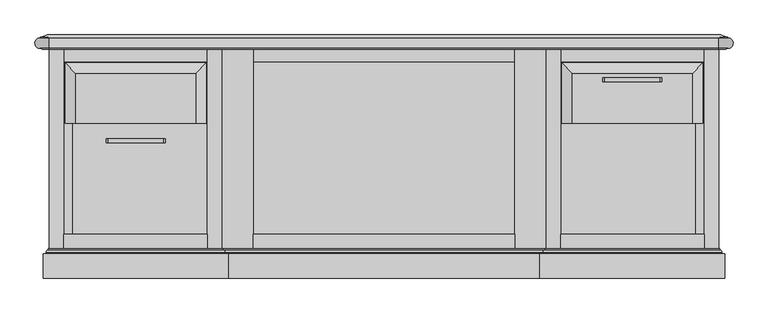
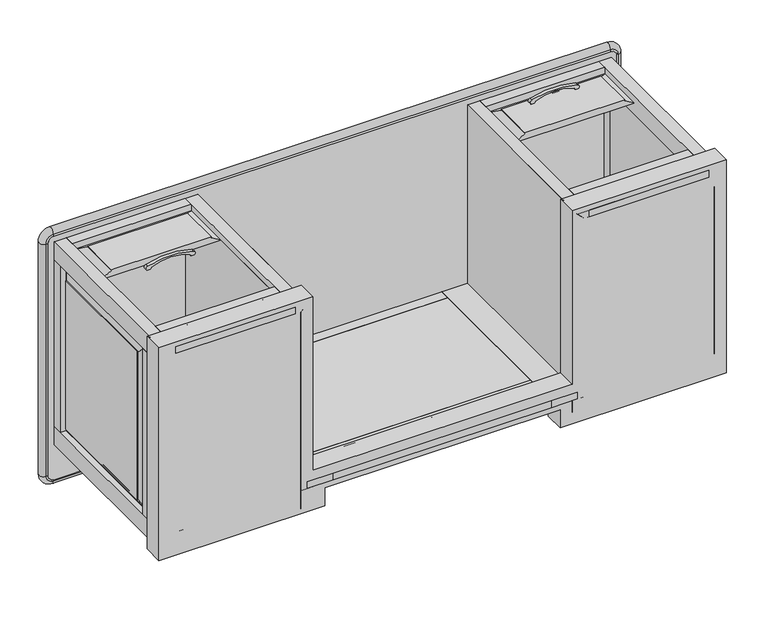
"""IFC4 building model written with IfcOpenShell, lengths in millimetres: proxy geometry, CCN^BRIGHTON_39x84 DESK-PARTS SOLID."""

from ifc_helpers import new_model, si_unit, point, frame, frame_2d, origin, origin_with_axes, place, context, project, spatial, polyline, circle_curve, ellipse_curve, trimmed, segment, composite_curve, outline, extrude, faceted_brep, source, transform, mapped, element, save
from ifc_brep_helpers import plane_surface, cylinder_surface, revolved_surface, advanced_brep


def generic_models_2e247f11(model_context):
    return source(origin(), model_context, "Body", "SolidModel", [
        extrude(outline(composite_curve([segment(polyline([(787.4, 176.8681458), (787.4, 188.1818542)]), True, "CONTINUOUS"), segment(trimmed(circle_curve(frame_2d((794.4, 182.525)), 9.0), [point((787.4, 188.1818542))], [point((794.4, 191.525))], False, "CARTESIAN"), True, "CONTINUOUS"), segment(trimmed(circle_curve(frame_2d((631.8305072, 263.525)), 177.8), [point((794.4, 191.525))], [point((794.4, 335.525))], True, "CARTESIAN"), True, "CONTINUOUS"), segment(trimmed(circle_curve(frame_2d((794.4, 344.525)), 9.0), [point((794.4, 335.525))], [point((787.4, 338.8681458))], False, "CARTESIAN"), True, "CONTINUOUS"), segment(polyline([(787.4, 338.8681458), (787.4, 350.1818542)]), True, "CONTINUOUS"), segment(trimmed(circle_curve(frame_2d((794.4, 344.525)), 9.0), [point((787.4, 350.1818542))], [point((803.0134228, 347.134396))], False, "CARTESIAN"), True, "CONTINUOUS"), segment(trimmed(circle_curve(frame_2d((527.025, 263.525)), 288.375), [point((803.0134228, 347.134396))], [point((803.0134228, 179.915604))], False, "CARTESIAN"), True, "CONTINUOUS"), segment(trimmed(circle_curve(frame_2d((794.4, 182.525)), 9.0), [point((803.0134228, 179.915604))], [point((787.4, 176.8681458))], False, "CARTESIAN"), True, "CONTINUOUS")], self_intersect=False)), frame((0.0, 413.1, 0.0), z_axis=(0.0, 1.0, 0.0), x_axis=(0.0, 0.0, 1.0)), (0.0, 0.0, 1.0), 12.0),
        extrude(outline(composite_curve([segment(polyline([(787.4, 1694.5181458), (787.4, 1705.8318542)]), True, "CONTINUOUS"), segment(trimmed(circle_curve(frame_2d((794.4, 1700.175)), 9.0), [point((787.4, 1705.8318542))], [point((794.4, 1709.175))], False, "CARTESIAN"), True, "CONTINUOUS"), segment(trimmed(circle_curve(frame_2d((631.8305072, 1781.175)), 177.8), [point((794.4, 1709.175))], [point((794.4, 1853.175))], True, "CARTESIAN"), True, "CONTINUOUS"), segment(trimmed(circle_curve(frame_2d((794.4, 1862.175)), 9.0), [point((794.4, 1853.175))], [point((787.4, 1856.5181458))], False, "CARTESIAN"), True, "CONTINUOUS"), segment(polyline([(787.4, 1856.5181458), (787.4, 1867.8318542)]), True, "CONTINUOUS"), segment(trimmed(circle_curve(frame_2d((794.4, 1862.175)), 9.0), [point((787.4, 1867.8318542))], [point((803.0134228, 1864.784396))], False, "CARTESIAN"), True, "CONTINUOUS"), segment(trimmed(circle_curve(frame_2d((527.025, 1781.175)), 288.375), [point((803.0134228, 1864.784396))], [point((803.0134228, 1697.565604))], False, "CARTESIAN"), True, "CONTINUOUS"), segment(trimmed(circle_curve(frame_2d((794.4, 1700.175)), 9.0), [point((803.0134228, 1697.565604))], [point((787.4, 1694.5181458))], False, "CARTESIAN"), True, "CONTINUOUS")], self_intersect=False)), frame((0.0, 600.425, 0.0), z_axis=(0.0, 1.0, 0.0), x_axis=(0.0, 0.0, 1.0)), (0.0, 0.0, 1.0), 12.0),
        extrude(outline(polyline([(482.6, 133.35), (482.6, 0.0), (44.45, 0.0), (44.45, 133.35), (482.6, 133.35)])), frame((0.0, 0.0, 762.0), z_axis=(0.0, 0.0, 1.0), x_axis=(1.0, 0.0, 0.0)), (0.0, 0.0, 1.0), 25.4),
        extrude(outline(polyline([(1562.1, 0.0), (1562.1, 133.35), (2000.25, 133.35), (2000.25, 0.0), (1562.1, 0.0)])), frame((0.0, 0.0, 762.0), z_axis=(0.0, 0.0, 1.0), x_axis=(1.0, 0.0, 0.0)), (0.0, 0.0, 1.0), 25.4),
        advanced_brep(
        [(0.0, 698.5, -135.7882387), (2044.7, 698.5, -135.7882387), (2066.1882387, 698.5, -114.3), (2066.1882387, 698.5, 787.4), (2044.7, 698.5, 808.8882387), (0.0, 698.5, 808.8882387), (-21.4882387, 698.5, 787.4), (-21.4882387, 698.5, -114.3), (-6.6109266, 742.95, -120.9109266), (-6.6109266, 742.95, 794.0109266), (2051.3109266, 742.95, 794.0109266), (2051.3109266, 742.95, -120.9109266), (-20.2055763, 738.0019522, -134.5055763), (-28.575, 734.9557311, -114.3), (-28.575, 734.9557311, 787.4), (-20.2055763, 738.0019522, 807.6055763), (2064.9055763, 738.0019522, -134.5055763), (2044.7, 734.9557311, -142.875), (0.0, 734.9557311, -142.875), (0.0, 733.3682311, -142.875), (-28.575, 733.3682311, -114.3), (0.0, 734.9557311, 815.975), (2044.7, 734.9557311, 815.975), (2064.9055763, 738.0019522, 807.6055763), (-28.575, 733.3682311, 787.4), (0.0, 733.3682311, 815.975), (2073.275, 734.9557311, 787.4), (2073.275, 734.9557311, -114.3), (2044.7, 733.3682311, 815.975), (2073.275, 733.3682311, 787.4), (2073.275, 733.3682311, -114.3), (2044.7, 733.3682311, -142.875), (2044.7, 701.6587803, -141.7410714), (0.0, 701.6587803, -141.7410714), (2072.1410714, 701.6587803, -114.3), (2072.1410714, 701.6587803, 787.4), (2044.7, 701.6587803, 814.8410714), (0.0, 701.6587803, 814.8410714), (-27.4410714, 701.6587803, 787.4), (-27.4410714, 701.6587803, -114.3)],
        [
            (0, 1),
            (1, 2, circle_curve(frame((2044.7, 698.5, -114.3), z_axis=(0.0, -1.0, 0.0), x_axis=(1.0, 0.0, 0.0)), 21.4882387)),
            (2, 3),
            (3, 4, circle_curve(frame((2044.7, 698.5, 787.4), z_axis=(0.0, -1.0, 0.0), x_axis=(0.0, 0.0, 1.0)), 21.4882387)),
            (4, 5),
            (5, 6, circle_curve(frame((0.0, 698.5, 787.4), z_axis=(0.0, -1.0, 0.0), x_axis=(-1.0, 0.0, 0.0)), 21.4882387)),
            (6, 7),
            (7, 0, circle_curve(frame((0.0, 698.5, -114.3), z_axis=(0.0, -1.0, 0.0), x_axis=(0.0, 0.0, -1.0)), 21.4882387)),
            (8, 9),
            (9, 10),
            (10, 11),
            (11, 8),
            (12, 13, ellipse_curve(frame((0.0, 745.3561805, -114.3), z_axis=(-0.3420201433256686, 0.9396926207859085, 0.0), x_axis=(0.9396926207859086, 0.34202014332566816, 0.0)), 30.4088798, 28.575)),
            (13, 14),
            (14, 15, ellipse_curve(frame((0.0, 745.3561805, 787.4), z_axis=(-0.3420201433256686, 0.9396926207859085, 0.0), x_axis=(0.9396926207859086, 0.34202014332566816, 0.0)), 30.4088798, 28.575)),
            (15, 9),
            (8, 12),
            (11, 16),
            (16, 17, ellipse_curve(frame((2044.7, 745.3561805, -114.3), z_axis=(0.0, 0.9396926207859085, -0.3420201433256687), x_axis=(0.0, 0.34202014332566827, 0.9396926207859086)), 30.4088798, 28.575)),
            (17, 18),
            (18, 12, ellipse_curve(frame((0.0, 745.3561805, -114.3), z_axis=(0.0, 0.9396926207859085, -0.3420201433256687), x_axis=(0.0, 0.34202014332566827, 0.9396926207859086)), 30.4088798, 28.575)),
            (18, 19),
            (19, 20, circle_curve(frame((0.0, 733.3682311, -114.3), z_axis=(0.0, 1.0, 0.0), x_axis=(0.0, 0.0, -1.0)), 28.575)),
            (20, 13),
            (15, 21, ellipse_curve(frame((0.0, 745.3561805, 787.4), z_axis=(0.0, 0.9396926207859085, 0.3420201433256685), x_axis=(0.0, 0.34202014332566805, -0.9396926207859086)), 30.4088798, 28.575)),
            (21, 22),
            (22, 23, ellipse_curve(frame((2044.7, 745.3561805, 787.4), z_axis=(0.0, 0.9396926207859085, 0.3420201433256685), x_axis=(0.0, 0.34202014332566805, -0.9396926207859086)), 30.4088798, 28.575)),
            (23, 10),
            (14, 24),
            (24, 25, circle_curve(frame((0.0, 733.3682311, 787.4), z_axis=(0.0, 1.0, 0.0), x_axis=(-1.0, 0.0, 0.0)), 28.575)),
            (25, 21),
            (23, 26, ellipse_curve(frame((2044.7, 745.3561805, 787.4), z_axis=(0.3420201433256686, 0.9396926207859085, 0.0), x_axis=(-0.9396926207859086, 0.34202014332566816, 0.0)), 30.4088798, 28.575)),
            (26, 27),
            (27, 16, ellipse_curve(frame((2044.7, 745.3561805, -114.3), z_axis=(0.3420201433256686, 0.9396926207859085, 0.0), x_axis=(-0.9396926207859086, 0.34202014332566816, 0.0)), 30.4088798, 28.575)),
            (22, 28),
            (28, 29, circle_curve(frame((2044.7, 733.3682311, 787.4), z_axis=(0.0, 1.0, 0.0), x_axis=(0.0, 0.0, 1.0)), 28.575)),
            (29, 26),
            (27, 30),
            (30, 31, circle_curve(frame((2044.7, 733.3682311, -114.3), z_axis=(0.0, 1.0, 0.0), x_axis=(1.0, 0.0, 0.0)), 28.575)),
            (31, 17),
            (32, 1, circle_curve(frame((2044.7, 695.325, -141.2875), z_axis=(1.0, 0.0, 0.0), x_axis=(0.0, 0.9974457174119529, -0.07142857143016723)), 6.35)),
            (0, 33, circle_curve(frame((0.0, 695.325, -141.2875), z_axis=(-1.0, 0.0, 0.0), x_axis=(0.0, 0.9974457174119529, -0.07142857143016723)), 6.35)),
            (33, 32),
            (34, 2, circle_curve(frame((2071.6875, 695.325, -114.3), z_axis=(0.0, 0.0, 1.0), x_axis=(1.0, 0.0, 0.0)), 6.35)),
            (32, 34, circle_curve(frame((2044.7, 701.6587803, -114.3), z_axis=(0.0, -1.0, 0.0), x_axis=(1.0, 0.0, 0.0)), 27.4410714)),
            (35, 3, circle_curve(frame((2071.6875, 695.325, 787.4), z_axis=(0.0, 0.0, 1.0), x_axis=(0.07142857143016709, 0.9974457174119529, 0.0)), 6.35)),
            (34, 35),
            (36, 4, circle_curve(frame((2044.7, 695.325, 814.3875), z_axis=(-1.0, 0.0, 0.0), x_axis=(0.0, 0.0, 1.0)), 6.35)),
            (35, 36, circle_curve(frame((2044.7, 701.6587803, 787.4), z_axis=(0.0, -1.0, 0.0), x_axis=(0.0, 0.0, 1.0)), 27.4410714)),
            (37, 5, circle_curve(frame((0.0, 695.325, 814.3875), z_axis=(-1.0, 0.0, 0.0), x_axis=(0.0, 0.9974457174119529, 0.07142857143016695)), 6.35)),
            (36, 37),
            (38, 6, circle_curve(frame((-26.9875, 695.325, 787.4), z_axis=(0.0, 0.0, -1.0), x_axis=(-1.0, 0.0, 0.0)), 6.35)),
            (37, 38, circle_curve(frame((0.0, 701.6587803, 787.4), z_axis=(0.0, -1.0, 0.0), x_axis=(-1.0, 0.0, 0.0)), 27.4410714)),
            (39, 7, circle_curve(frame((-26.9875, 695.325, -114.3), z_axis=(0.0, 0.0, -1.0), x_axis=(-0.07142857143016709, 0.9974457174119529, 0.0)), 6.35)),
            (38, 39),
            (39, 33, circle_curve(frame((0.0, 701.6587803, -114.3), z_axis=(0.0, -1.0, 0.0), x_axis=(0.0, 0.0, -1.0)), 27.4410714)),
            (31, 19),
            (31, 32, circle_curve(frame((2044.7, 717.4932311, -142.875), z_axis=(-1.0, 0.0, 0.0), x_axis=(0.0, 0.996424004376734, -0.08449380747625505)), 15.875)),
            (33, 19, circle_curve(frame((0.0, 717.4932311, -142.875), z_axis=(1.0, 0.0, 0.0), x_axis=(0.0, 0.996424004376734, -0.08449380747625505)), 15.875)),
            (30, 34, circle_curve(frame((2073.275, 717.4932311, -114.3), z_axis=(0.0, 0.0, -1.0), x_axis=(1.0, 0.0, 0.0)), 15.875)),
            (29, 30),
            (29, 35, circle_curve(frame((2073.275, 717.4932311, 787.4), z_axis=(0.0, 0.0, -1.0), x_axis=(0.08449380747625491, 0.996424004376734, 0.0)), 15.875)),
            (28, 36, circle_curve(frame((2044.7, 717.4932311, 815.975), z_axis=(1.0, 0.0, 0.0), x_axis=(0.0, 0.0, 1.0)), 15.875)),
            (25, 28),
            (25, 37, circle_curve(frame((0.0, 717.4932311, 815.975), z_axis=(1.0, 0.0, 0.0), x_axis=(0.0, 0.996424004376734, 0.08449380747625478)), 15.875)),
            (24, 38, circle_curve(frame((-28.575, 717.4932311, 787.4), z_axis=(0.0, 0.0, 1.0), x_axis=(-1.0, 0.0, 0.0)), 15.875)),
            (20, 24),
            (20, 39, circle_curve(frame((-28.575, 717.4932311, -114.3), z_axis=(0.0, 0.0, 1.0), x_axis=(-0.08449380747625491, 0.996424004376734, 0.0)), 15.875)),
        ],
        [
            plane_surface(frame((1022.35, 698.5, 336.55), z_axis=(0.0, -1.0, 0.0), x_axis=(0.0, 0.0, 1.0))),
            plane_surface(frame((1022.35, 742.95, 336.55), z_axis=(0.0, 1.0, 0.0), x_axis=(0.0, 0.0, 1.0))),
            plane_surface(frame((-28.575, 734.9557311, -114.3), z_axis=(-0.3420201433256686, 0.9396926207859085, 0.0), x_axis=(0.9396926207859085, 0.3420201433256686, 0.0))),
            plane_surface(frame((2044.7, 734.9557311, -142.875), z_axis=(0.0, 0.9396926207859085, -0.3420201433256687), x_axis=(0.0, 0.3420201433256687, 0.9396926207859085))),
            cylinder_surface(frame((0.0, 734.1619811, -114.3), z_axis=(0.0, 1.0, 0.0), x_axis=(0.0, 0.0, -1.0)), 28.575),
            plane_surface(frame((0.0, 734.9557311, 815.975), z_axis=(0.0, 0.9396926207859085, 0.3420201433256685), x_axis=(0.0, 0.3420201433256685, -0.9396926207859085))),
            cylinder_surface(frame((0.0, 734.1619811, 787.4), z_axis=(0.0, 1.0, 0.0), x_axis=(-1.0, 0.0, 0.0)), 28.575),
            plane_surface(frame((2073.275, 734.9557311, 787.4), z_axis=(0.3420201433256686, 0.9396926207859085, 0.0), x_axis=(-0.9396926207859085, 0.3420201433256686, 0.0))),
            cylinder_surface(frame((2044.7, 734.1619811, 787.4), z_axis=(0.0, 1.0, 0.0), x_axis=(0.0, 0.0, 1.0)), 28.575),
            cylinder_surface(frame((2044.7, 734.1619811, -114.3), z_axis=(0.0, 1.0, 0.0), x_axis=(1.0, 0.0, 0.0)), 28.575),
            revolved_surface(polyline([(4.547473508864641e-13, 701.658780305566, -141.74107142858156), (2044.7, 701.658780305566, -141.74107142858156)]), (2044.7, 695.325, -141.2875), (-0.9999999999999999, 0.0, 0.0)),
            revolved_surface(trimmed(ellipse_curve(frame((2071.6875, 695.325, -114.3), z_axis=(0.0, 0.0, -1.0), x_axis=(1.0, 0.0, 0.0)), 6.35, 6.35), [point((2066.1882387, 698.5, -114.3))], [point((2072.1410714, 701.6587803, -114.3))], True, "CARTESIAN"), (2044.7, 695.325, -114.3), (0.0, 1.0, 0.0)),
            revolved_surface(polyline([(2072.1410714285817, 701.658780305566, -114.29999999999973), (2072.1410714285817, 701.658780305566, 787.4)]), (2071.6875, 695.325, 787.4), (0.0, 0.0, -0.9999999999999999)),
            revolved_surface(trimmed(ellipse_curve(frame((2044.7, 695.325, 814.3875), z_axis=(1.0, 0.0, 0.0), x_axis=(0.0, 0.0, 1.0)), 6.35, 6.35), [point((2044.7, 698.5, 808.8882387))], [point((2044.7, 701.6587803, 814.8410714))], True, "CARTESIAN"), (2044.7, 695.325, 787.4), (0.0, 1.0, 0.0)),
            revolved_surface(polyline([(2044.6999999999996, 701.658780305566, 814.8410714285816), (0.0, 701.658780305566, 814.8410714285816)]), (0.0, 695.325, 814.3875), (0.9999999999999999, 0.0, 0.0)),
            revolved_surface(trimmed(ellipse_curve(frame((-26.9875, 695.325, 787.4), z_axis=(0.0, 0.0, 1.0), x_axis=(-1.0, 0.0, 0.0)), 6.35, 6.35), [point((-21.4882387, 698.5, 787.4))], [point((-27.4410714, 701.6587803, 787.4))], True, "CARTESIAN"), (0.0, 695.325, 787.4), (0.0, 1.0, 0.0)),
            revolved_surface(polyline([(-27.441071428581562, 701.658780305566, 787.3999999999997), (-27.441071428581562, 701.658780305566, -114.3)]), (-26.9875, 695.325, -114.3), (0.0, 0.0, 0.9999999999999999)),
            revolved_surface(trimmed(ellipse_curve(frame((0.0, 695.325, -141.2875), z_axis=(-1.0, 0.0, 0.0), x_axis=(0.0, 0.0, -1.0)), 6.35, 6.35), [point((0.0, 698.5, -135.7882387))], [point((0.0, 701.6587803, -141.7410714))], True, "CARTESIAN"), (0.0, 695.325, -114.3), (0.0, 1.0, 0.0)),
            plane_surface(frame((2044.7, 733.3682311, -142.875), z_axis=(0.0, 0.0, -1.0), x_axis=(0.0, 1.0, 0.0))),
            cylinder_surface(frame((2044.7, 717.4932311, -142.875), z_axis=(-0.9999999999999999, 0.0, 0.0), x_axis=(0.0, 0.996424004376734, -0.08449380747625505)), 15.875),
            revolved_surface(trimmed(ellipse_curve(frame((2073.275, 717.4932311, -114.3), z_axis=(0.0, 0.0, 1.0), x_axis=(1.0, 0.0, 0.0)), 15.875, 15.875), [point((2072.1410714, 701.6587803, -114.3))], [point((2073.275, 733.3682311, -114.3))], True, "CARTESIAN"), (2044.7, 717.4932311, -114.3), (0.0, 1.0, 0.0)),
            plane_surface(frame((2073.275, 733.3682311, 787.4), z_axis=(1.0, 0.0, 0.0), x_axis=(0.0, 1.0, 0.0))),
            cylinder_surface(frame((2073.275, 717.4932311, 787.4), z_axis=(0.0, 0.0, -0.9999999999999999), x_axis=(0.08449380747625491, 0.996424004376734, 0.0)), 15.875),
            revolved_surface(trimmed(ellipse_curve(frame((2044.7, 717.4932311, 815.975), z_axis=(-1.0, 0.0, 0.0), x_axis=(0.0, 0.0, 1.0)), 15.875, 15.875), [point((2044.7, 701.6587803, 814.8410714))], [point((2044.7, 733.3682311, 815.975))], True, "CARTESIAN"), (2044.7, 717.4932311, 787.4), (0.0, 1.0, 0.0)),
            plane_surface(frame((0.0, 733.3682311, 815.975), z_axis=(0.0, 0.0, 1.0), x_axis=(0.0, 1.0, 0.0))),
            cylinder_surface(frame((0.0, 717.4932311, 815.975), z_axis=(0.9999999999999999, 0.0, 0.0), x_axis=(0.0, 0.996424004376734, 0.08449380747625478)), 15.875),
            revolved_surface(trimmed(ellipse_curve(frame((-28.575, 717.4932311, 787.4), z_axis=(0.0, 0.0, -1.0), x_axis=(-1.0, 0.0, 0.0)), 15.875, 15.875), [point((-27.4410714, 701.6587803, 787.4))], [point((-28.575, 733.3682311, 787.4))], True, "CARTESIAN"), (0.0, 717.4932311, 787.4), (0.0, 1.0, 0.0)),
            plane_surface(frame((-28.575, 733.3682311, -114.3), z_axis=(-1.0, 0.0, 0.0), x_axis=(0.0, 1.0, 0.0))),
            cylinder_surface(frame((-28.575, 717.4932311, -114.3), z_axis=(0.0, 0.0, 0.9999999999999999), x_axis=(-0.08449380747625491, 0.996424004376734, 0.0)), 15.875),
            revolved_surface(trimmed(ellipse_curve(frame((0.0, 717.4932311, -142.875), z_axis=(1.0, 0.0, 0.0), x_axis=(0.0, 0.0, -1.0)), 15.875, 15.875), [point((0.0, 701.6587803, -141.7410714))], [point((0.0, 733.3682311, -142.875))], True, "CARTESIAN"), (0.0, 717.4932311, -114.3), (0.0, 1.0, 0.0)),
        ],
        [
            (0, [[1, 2, 3, 4, 5, 6, 7, 8]]),
            (1, [[9, 10, 11, 12]]),
            (2, [[13, 14, 15, 16, -9, 17]]),
            (3, [[-17, -12, 18, 19, 20, 21]]),
            (4, [[-13, -21, 22, 23, 24]]),
            (5, [[25, 26, 27, 28, -10, -16]]),
            (6, [[-25, -15, 29, 30, 31]]),
            (7, [[32, 33, 34, -18, -11, -28]]),
            (8, [[-32, -27, 35, 36, 37]]),
            (9, [[-19, -34, 38, 39, 40]]),
            (10, [[41, -1, 42, 43]]),
            (11, [[44, -2, -41, 45]]),
            (12, [[46, -3, -44, 47]]),
            (13, [[48, -4, -46, 49]]),
            (14, [[50, -5, -48, 51]]),
            (15, [[52, -6, -50, 53]]),
            (16, [[54, -7, -52, 55]]),
            (17, [[-42, -8, -54, 56]]),
            (18, [[-40, 57, -22, -20]]),
            (19, [[58, -43, 59, -57]]),
            (20, [[60, -45, -58, -39]]),
            (21, [[-37, 61, -38, -33]]),
            (22, [[62, -47, -60, -61]]),
            (23, [[63, -49, -62, -36]]),
            (24, [[-31, 64, -35, -26]]),
            (25, [[65, -51, -63, -64]]),
            (26, [[66, -53, -65, -30]]),
            (27, [[-24, 67, -29, -14]]),
            (28, [[68, -55, -66, -67]]),
            (29, [[-59, -56, -68, -23]]),
        ],
    ),
        extrude(outline(polyline([(622.3, 0.0), (622.3, 133.35), (1422.4, 133.35), (1422.4, 0.0), (622.3, 0.0)])), frame((0.0, 0.0, 69.85), z_axis=(0.0, 0.0, 1.0), x_axis=(1.0, 0.0, 0.0)), (0.0, 0.0, 1.0), 25.4),
        extrude(outline(polyline([(527.05, 704.85), (622.3, 704.85), (622.3, 0.0), (527.05, 0.0), (527.05, 704.85)])), frame((0.0, 0.0, 69.85), z_axis=(0.0, 0.0, 1.0), x_axis=(1.0, 0.0, 0.0)), (0.0, 0.0, 1.0), 25.4),
        extrude(outline(polyline([(1422.4, 704.85), (1517.65, 704.85), (1517.65, 0.0), (1422.4, 0.0), (1422.4, 704.85)])), frame((0.0, 0.0, 69.85), z_axis=(0.0, 0.0, 1.0), x_axis=(1.0, 0.0, 0.0)), (0.0, 0.0, 1.0), 25.4),
        advanced_brep(
        [(1470.025, 88.9, 66.675), (574.675, 88.9, 66.675), (574.675, 88.9, -3.175), (-3.175, 88.9, -3.175), (-3.175, 88.9, 790.575), (530.225, 88.9, 790.575), (530.225, 88.9, 117.475), (1514.475, 88.9, 117.475), (1514.475, 88.9, 790.575), (2047.875, 88.9, 790.575), (2047.875, 88.9, -3.175), (1470.025, 88.9, -3.175), (-19.05, 0.0, -19.05), (590.55, 0.0, -19.05), (590.55, 0.0, 50.8), (1454.15, 0.0, 50.8), (1454.15, 0.0, -19.05), (2063.75, 0.0, -19.05), (2063.75, 0.0, 806.45), (1498.6, 0.0, 806.45), (1498.6, 0.0, 133.35), (546.1, 0.0, 133.35), (546.1, 0.0, 806.45), (-19.05, 0.0, 806.45), (1470.025, 85.725, 66.675), (1463.675, 79.375, 60.325), (581.025, 79.375, 60.325), (574.675, 85.725, 66.675), (1457.325, 73.025, 53.975), (1454.15, 73.8757387, 50.8), (590.55, 73.8757387, 50.8), (587.375, 73.025, 53.975), (1470.025, 85.725, -3.175), (1463.675, 79.375, -9.525), (1457.325, 73.025, -15.875), (1454.15, 73.8757387, -19.05), (2047.875, 85.725, -3.175), (2054.225, 79.375, -9.525), (2060.575, 73.025, -15.875), (2063.75, 73.8757387, -19.05), (2047.875, 85.725, 790.575), (2054.225, 79.375, 796.925), (2060.575, 73.025, 803.275), (2063.75, 73.8757387, 806.45), (1514.475, 85.725, 790.575), (1508.125, 79.375, 796.925), (1501.775, 73.025, 803.275), (1498.6, 73.8757387, 806.45), (1514.475, 85.725, 117.475), (1508.125, 79.375, 123.825), (1501.775, 73.025, 130.175), (1498.6, 73.8757387, 133.35), (530.225, 85.725, 117.475), (536.575, 79.375, 123.825), (542.925, 73.025, 130.175), (546.1, 73.8757387, 133.35), (530.225, 85.725, 790.575), (536.575, 79.375, 796.925), (542.925, 73.025, 803.275), (546.1, 73.8757387, 806.45), (-3.175, 85.725, 790.575), (-9.525, 79.375, 796.925), (-15.875, 73.025, 803.275), (-19.05, 73.8757387, 806.45), (-3.175, 85.725, -3.175), (-9.525, 79.375, -9.525), (-15.875, 73.025, -15.875), (-19.05, 73.8757387, -19.05), (574.675, 85.725, -3.175), (581.025, 79.375, -9.525), (587.375, 73.025, -15.875), (590.55, 73.8757387, -19.05)],
        [
            (0, 1),
            (1, 2),
            (2, 3),
            (3, 4),
            (4, 5),
            (5, 6),
            (6, 7),
            (7, 8),
            (8, 9),
            (9, 10),
            (10, 11),
            (11, 0),
            (12, 13),
            (13, 14),
            (14, 15),
            (15, 16),
            (16, 17),
            (17, 18),
            (18, 19),
            (19, 20),
            (20, 21),
            (21, 22),
            (22, 23),
            (23, 12),
            (24, 25, ellipse_curve(frame((1470.025, 79.375, 66.675), z_axis=(-0.7071067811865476, 0.0, 0.7071067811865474), x_axis=(-0.7071067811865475, 0.0, -0.7071067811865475)), 8.9802561, 6.35)),
            (25, 26),
            (26, 27, ellipse_curve(frame((574.675, 79.375, 66.675), z_axis=(0.7071067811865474, 0.0, 0.7071067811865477), x_axis=(-0.7071067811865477, 0.0, 0.7071067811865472)), 8.9802561, 6.35)),
            (27, 24),
            (28, 29, ellipse_curve(frame((1457.325, 79.375, 53.975), z_axis=(0.7071067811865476, 0.0, -0.7071067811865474), x_axis=(-0.7071067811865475, 0.0, -0.7071067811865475)), 8.9802561, 6.35)),
            (29, 30),
            (30, 31, ellipse_curve(frame((587.375, 79.375, 53.975), z_axis=(-0.7071067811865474, 0.0, -0.7071067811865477), x_axis=(-0.7071067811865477, 0.0, 0.7071067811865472)), 8.9802561, 6.35)),
            (31, 26, ellipse_curve(frame((587.375, 79.375, 53.975), z_axis=(-0.7071067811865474, 0.0, -0.7071067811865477), x_axis=(-0.7071067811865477, 0.0, 0.7071067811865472)), 8.9802561, 6.35)),
            (25, 28, ellipse_curve(frame((1457.325, 79.375, 53.975), z_axis=(0.7071067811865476, 0.0, -0.7071067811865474), x_axis=(-0.7071067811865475, 0.0, -0.7071067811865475)), 8.9802561, 6.35)),
            (0, 24),
            (27, 1),
            (32, 33, ellipse_curve(frame((1470.025, 79.375, -3.175), z_axis=(-0.7071067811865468, 0.0, 0.7071067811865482), x_axis=(0.7071067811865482, 0.0, 0.7071067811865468)), 8.9802561, 6.35)),
            (33, 25),
            (24, 32),
            (34, 35, ellipse_curve(frame((1457.325, 79.375, -15.875), z_axis=(0.7071067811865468, 0.0, -0.7071067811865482), x_axis=(0.7071067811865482, 0.0, 0.7071067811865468)), 8.9802561, 6.35)),
            (35, 29),
            (33, 34, ellipse_curve(frame((1457.325, 79.375, -15.875), z_axis=(0.7071067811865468, 0.0, -0.7071067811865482), x_axis=(0.7071067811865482, 0.0, 0.7071067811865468)), 8.9802561, 6.35)),
            (11, 32),
            (36, 37, ellipse_curve(frame((2047.875, 79.375, -3.175), z_axis=(-0.7071067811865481, 0.0, -0.7071067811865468), x_axis=(-0.7071067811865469, 0.0, 0.707106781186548)), 8.9802561, 6.35)),
            (37, 33),
            (32, 36),
            (38, 39, ellipse_curve(frame((2060.575, 79.375, -15.875), z_axis=(0.7071067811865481, 0.0, 0.7071067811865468), x_axis=(-0.7071067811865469, 0.0, 0.707106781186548)), 8.9802561, 6.35)),
            (39, 35),
            (37, 38, ellipse_curve(frame((2060.575, 79.375, -15.875), z_axis=(0.7071067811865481, 0.0, 0.7071067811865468), x_axis=(-0.7071067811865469, 0.0, 0.707106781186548)), 8.9802561, 6.35)),
            (10, 36),
            (40, 41, ellipse_curve(frame((2047.875, 79.375, 790.575), z_axis=(0.7071067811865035, 0.0, -0.7071067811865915), x_axis=(-0.7071067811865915, 0.0, -0.7071067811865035)), 8.9802561, 6.35)),
            (41, 37),
            (36, 40),
            (42, 43, ellipse_curve(frame((2060.575, 79.375, 803.275), z_axis=(-0.7071067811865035, 0.0, 0.7071067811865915), x_axis=(-0.7071067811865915, 0.0, -0.7071067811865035)), 8.9802561, 6.35)),
            (43, 39),
            (41, 42, ellipse_curve(frame((2060.575, 79.375, 803.275), z_axis=(-0.7071067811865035, 0.0, 0.7071067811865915), x_axis=(-0.7071067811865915, 0.0, -0.7071067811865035)), 8.9802561, 6.35)),
            (9, 40),
            (44, 45, ellipse_curve(frame((1514.475, 79.375, 790.575), z_axis=(0.7071067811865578, 0.0, 0.7071067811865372), x_axis=(0.7071067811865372, 0.0, -0.7071067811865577)), 8.9802561, 6.35)),
            (45, 41),
            (40, 44),
            (46, 47, ellipse_curve(frame((1501.775, 79.375, 803.275), z_axis=(-0.7071067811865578, 0.0, -0.7071067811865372), x_axis=(0.7071067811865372, 0.0, -0.7071067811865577)), 8.9802561, 6.35)),
            (47, 43),
            (45, 46, ellipse_curve(frame((1501.775, 79.375, 803.275), z_axis=(-0.7071067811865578, 0.0, -0.7071067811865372), x_axis=(0.7071067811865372, 0.0, -0.7071067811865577)), 8.9802561, 6.35)),
            (8, 44),
            (48, 49, ellipse_curve(frame((1514.475, 79.375, 117.475), z_axis=(0.7071067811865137, 0.0, 0.7071067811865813), x_axis=(-0.7071067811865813, 0.0, 0.7071067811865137)), 8.9802561, 6.35)),
            (49, 45),
            (44, 48),
            (50, 51, ellipse_curve(frame((1501.775, 79.375, 130.175), z_axis=(-0.7071067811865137, 0.0, -0.7071067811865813), x_axis=(-0.7071067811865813, 0.0, 0.7071067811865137)), 8.9802561, 6.35)),
            (51, 47),
            (49, 50, ellipse_curve(frame((1501.775, 79.375, 130.175), z_axis=(-0.7071067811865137, 0.0, -0.7071067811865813), x_axis=(-0.7071067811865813, 0.0, 0.7071067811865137)), 8.9802561, 6.35)),
            (7, 48),
            (52, 53, ellipse_curve(frame((530.225, 79.375, 117.475), z_axis=(0.7071067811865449, 0.0, -0.7071067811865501), x_axis=(0.7071067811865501, 0.0, 0.7071067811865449)), 8.9802561, 6.35)),
            (53, 49),
            (48, 52),
            (54, 55, ellipse_curve(frame((542.925, 79.375, 130.175), z_axis=(-0.7071067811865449, 0.0, 0.7071067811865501), x_axis=(0.7071067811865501, 0.0, 0.7071067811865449)), 8.9802561, 6.35)),
            (55, 51),
            (53, 54, ellipse_curve(frame((542.925, 79.375, 130.175), z_axis=(-0.7071067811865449, 0.0, 0.7071067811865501), x_axis=(0.7071067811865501, 0.0, 0.7071067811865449)), 8.9802561, 6.35)),
            (6, 52),
            (56, 57, ellipse_curve(frame((530.225, 79.375, 790.575), z_axis=(0.7071067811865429, 0.0, -0.7071067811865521), x_axis=(-0.7071067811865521, 0.0, -0.7071067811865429)), 8.9802561, 6.35)),
            (57, 53),
            (52, 56),
            (58, 59, ellipse_curve(frame((542.925, 79.375, 803.275), z_axis=(-0.7071067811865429, 0.0, 0.7071067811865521), x_axis=(-0.7071067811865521, 0.0, -0.7071067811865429)), 8.9802561, 6.35)),
            (59, 55),
            (57, 58, ellipse_curve(frame((542.925, 79.375, 803.275), z_axis=(-0.7071067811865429, 0.0, 0.7071067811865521), x_axis=(-0.7071067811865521, 0.0, -0.7071067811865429)), 8.9802561, 6.35)),
            (5, 56),
            (60, 61, ellipse_curve(frame((-3.175, 79.375, 790.575), z_axis=(0.7071067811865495, 0.0, 0.7071067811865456), x_axis=(0.7071067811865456, 0.0, -0.7071067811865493)), 8.9802561, 6.35)),
            (61, 57),
            (56, 60),
            (62, 63, ellipse_curve(frame((-15.875, 79.375, 803.275), z_axis=(-0.7071067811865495, 0.0, -0.7071067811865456), x_axis=(0.7071067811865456, 0.0, -0.7071067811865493)), 8.9802561, 6.35)),
            (63, 59),
            (61, 62, ellipse_curve(frame((-15.875, 79.375, 803.275), z_axis=(-0.7071067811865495, 0.0, -0.7071067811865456), x_axis=(0.7071067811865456, 0.0, -0.7071067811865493)), 8.9802561, 6.35)),
            (4, 60),
            (64, 65, ellipse_curve(frame((-3.175, 79.375, -3.175), z_axis=(-0.7071067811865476, 0.0, 0.7071067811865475), x_axis=(0.7071067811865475, 0.0, 0.7071067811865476)), 8.9802561, 6.35)),
            (65, 61),
            (60, 64),
            (66, 67, ellipse_curve(frame((-15.875, 79.375, -15.875), z_axis=(0.7071067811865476, 0.0, -0.7071067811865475), x_axis=(0.7071067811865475, 0.0, 0.7071067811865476)), 8.9802561, 6.35)),
            (67, 63),
            (65, 66, ellipse_curve(frame((-15.875, 79.375, -15.875), z_axis=(0.7071067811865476, 0.0, -0.7071067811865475), x_axis=(0.7071067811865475, 0.0, 0.7071067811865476)), 8.9802561, 6.35)),
            (3, 64),
            (68, 69, ellipse_curve(frame((574.675, 79.375, -3.175), z_axis=(-0.7071067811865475, 0.0, -0.7071067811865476), x_axis=(-0.7071067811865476, 0.0, 0.7071067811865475)), 8.9802561, 6.35)),
            (69, 65),
            (64, 68),
            (70, 71, ellipse_curve(frame((587.375, 79.375, -15.875), z_axis=(0.7071067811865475, 0.0, 0.7071067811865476), x_axis=(-0.7071067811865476, 0.0, 0.7071067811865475)), 8.9802561, 6.35)),
            (71, 67),
            (69, 70, ellipse_curve(frame((587.375, 79.375, -15.875), z_axis=(0.7071067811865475, 0.0, 0.7071067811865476), x_axis=(-0.7071067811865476, 0.0, 0.7071067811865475)), 8.9802561, 6.35)),
            (2, 68),
            (30, 71),
            (69, 26),
            (68, 27),
            (59, 22),
            (21, 55),
            (63, 23),
            (67, 12),
            (71, 13),
            (30, 14),
            (29, 15),
            (35, 16),
            (39, 17),
            (43, 18),
            (47, 19),
            (51, 20),
        ],
        [
            plane_surface(frame((1022.35, 88.9, 393.7), z_axis=(0.0, 1.0, 0.0), x_axis=(0.0, 0.0, 1.0))),
            plane_surface(frame((1022.35, 0.0, 393.7), z_axis=(0.0, -1.0, 0.0), x_axis=(0.0, 0.0, -1.0))),
            cylinder_surface(frame((1470.025, 79.375, 66.675), z_axis=(-1.0, 0.0, 0.0), x_axis=(0.0, 0.0, 1.0)), 6.35),
            revolved_surface(polyline([(581.025, 79.375, 47.625), (1463.675, 79.375, 47.625)]), (1457.325, 79.375, 53.975), (-1.0, 0.0, 0.0)),
            plane_surface(frame((1470.025, 85.725, 66.675), z_axis=(0.0, 0.0, -1.0), x_axis=(0.0, 1.0, 0.0))),
            cylinder_surface(frame((1470.025, 79.375, -3.175), z_axis=(0.0, 0.0, 1.0), x_axis=(1.0, 0.0, 0.0)), 6.35),
            revolved_surface(polyline([(1450.9750000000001, 79.375, 60.325), (1450.9750000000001, 79.375, -22.224999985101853)]), (1457.325, 79.375, -15.875), (0.0, 0.0, 1.0)),
            plane_surface(frame((1470.025, 85.725, -3.175), z_axis=(-1.0, 0.0, 0.0), x_axis=(0.0, 1.0, 0.0))),
            cylinder_surface(frame((2047.875, 79.375, -3.175), z_axis=(-1.0, 0.0, 0.0), x_axis=(0.0, 0.0, 1.0)), 6.35),
            revolved_surface(polyline([(1450.9750000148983, 79.375, -22.225), (2066.9249999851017, 79.375, -22.225)]), (2060.575, 79.375, -15.875), (-1.0, 0.0, 0.0)),
            plane_surface(frame((2047.875, 85.725, -3.175), z_axis=(0.0, 0.0, -1.0), x_axis=(0.0, 1.0, 0.0))),
            cylinder_surface(frame((2047.875, 79.375, 790.575), z_axis=(0.0, 0.0, -1.0), x_axis=(-1.0, 0.0, 0.0)), 6.35),
            revolved_surface(polyline([(2066.9249999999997, 79.375, -22.224999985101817), (2066.9249999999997, 79.375, 809.6249999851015)]), (2060.575, 79.375, 803.275), (0.0, 0.0, -1.0)),
            plane_surface(frame((2047.875, 85.725, 790.575), z_axis=(1.0, 0.0, 0.0), x_axis=(0.0, 1.0, 0.0))),
            cylinder_surface(frame((1514.475, 79.375, 790.575), z_axis=(1.0, 0.0, 0.0), x_axis=(0.0, 0.0, -1.0)), 6.35),
            revolved_surface(polyline([(2066.924999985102, 79.375, 809.625), (1495.4250000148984, 79.375, 809.625)]), (1501.775, 79.375, 803.275), (1.0, 0.0, 0.0)),
            plane_surface(frame((1514.475, 85.725, 790.575), z_axis=(0.0, 0.0, 1.0), x_axis=(0.0, 1.0, 0.0))),
            cylinder_surface(frame((1514.475, 79.375, 117.475), z_axis=(0.0, 0.0, 1.0), x_axis=(1.0, 0.0, 0.0)), 6.35),
            revolved_surface(polyline([(1495.4250000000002, 79.375, 809.6249999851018), (1495.4250000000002, 79.375, 123.825)]), (1501.775, 79.375, 130.175), (0.0, 0.0, 1.0)),
            plane_surface(frame((1514.475, 85.725, 117.475), z_axis=(-1.0, 0.0, 0.0), x_axis=(0.0, 1.0, 0.0))),
            cylinder_surface(frame((530.225, 79.375, 117.475), z_axis=(1.0, 0.0, 0.0), x_axis=(0.0, 0.0, -1.0)), 6.35),
            revolved_surface(polyline([(1508.125, 79.375, 136.525), (536.575, 79.375, 136.525)]), (542.925, 79.375, 130.175), (1.0, 0.0, 0.0)),
            plane_surface(frame((530.225, 85.725, 117.475), z_axis=(0.0, 0.0, 1.0), x_axis=(0.0, 1.0, 0.0))),
            cylinder_surface(frame((530.225, 79.375, 790.575), z_axis=(0.0, 0.0, -1.0), x_axis=(-1.0, 0.0, 0.0)), 6.35),
            revolved_surface(polyline([(549.275, 79.375, 123.82500000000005), (549.275, 79.375, 809.6249999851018)]), (542.925, 79.375, 803.275), (0.0, 0.0, -1.0)),
            plane_surface(frame((530.225, 85.725, 790.575), z_axis=(1.0, 0.0, 0.0), x_axis=(0.0, 1.0, 0.0))),
            cylinder_surface(frame((-3.175, 79.375, 790.575), z_axis=(1.0, 0.0, 0.0), x_axis=(0.0, 0.0, -1.0)), 6.35),
            revolved_surface(polyline([(549.2749999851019, 79.375, 809.625), (-22.224999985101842, 79.375, 809.625)]), (-15.875, 79.375, 803.275), (1.0, 0.0, 0.0)),
            plane_surface(frame((-3.175, 85.725, 790.575), z_axis=(0.0, 0.0, 1.0), x_axis=(0.0, 1.0, 0.0))),
            cylinder_surface(frame((-3.175, 79.375, -3.175), z_axis=(0.0, 0.0, 1.0), x_axis=(1.0, 0.0, 0.0)), 6.35),
            revolved_surface(polyline([(-22.225, 79.375, 809.6249999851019), (-22.225, 79.375, -22.22499998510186)]), (-15.875, 79.375, -15.875), (0.0, 0.0, 1.0)),
            plane_surface(frame((-3.175, 85.725, -3.175), z_axis=(-1.0, 0.0, 0.0), x_axis=(0.0, 1.0, 0.0))),
            cylinder_surface(frame((574.675, 79.375, -3.175), z_axis=(-1.0, 0.0, 0.0), x_axis=(0.0, 0.0, 1.0)), 6.35),
            revolved_surface(polyline([(-22.224999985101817, 79.375, -22.225), (593.7249999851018, 79.375, -22.225)]), (587.375, 79.375, -15.875), (-1.0, 0.0, 0.0)),
            plane_surface(frame((574.675, 85.725, -3.175), z_axis=(0.0, 0.0, -1.0), x_axis=(0.0, 1.0, 0.0))),
            revolved_surface(polyline([(590.549999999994, 73.87573868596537, -22.22499998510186), (590.549999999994, 73.87573868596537, 60.325)]), (587.375, 79.375, 50.8), (0.0, 0.0, -1.0)),
            cylinder_surface(frame((574.675, 79.375, 50.8), z_axis=(0.0, 0.0, -1.0), x_axis=(0.0, -1.0, 0.0)), 6.35),
            plane_surface(frame((574.675, 85.725, 50.8), z_axis=(1.0, 0.0, 0.0), x_axis=(0.0, 1.0, 0.0))),
            plane_surface(frame((546.1, 0.0, 806.45), z_axis=(1.0, 0.0, 0.0), x_axis=(0.0, 0.0, -1.0))),
            plane_surface(frame((-19.05, 0.0, 806.45), z_axis=(0.0, 0.0, 1.0), x_axis=(1.0, 0.0, 0.0))),
            plane_surface(frame((-19.05, 0.0, -19.05), z_axis=(-1.0, 0.0, 0.0), x_axis=(0.0, 0.0, 1.0))),
            plane_surface(frame((590.55, 0.0, -19.05), z_axis=(0.0, 0.0, -1.0), x_axis=(-1.0, 0.0, 0.0))),
            plane_surface(frame((590.55, 0.0, 50.8), z_axis=(1.0, 0.0, 0.0), x_axis=(0.0, 0.0, -1.0))),
            plane_surface(frame((1454.15, 0.0, 50.8), z_axis=(0.0, 0.0, -1.0), x_axis=(-1.0, 0.0, 0.0))),
            plane_surface(frame((1454.15, 0.0, -19.05), z_axis=(-1.0, 0.0, 0.0), x_axis=(0.0, 0.0, 1.0))),
            plane_surface(frame((2063.75, 0.0, -19.05), z_axis=(0.0, 0.0, -1.0), x_axis=(-1.0, 0.0, 0.0))),
            plane_surface(frame((2063.75, 0.0, 806.45), z_axis=(1.0, 0.0, 0.0), x_axis=(0.0, 0.0, -1.0))),
            plane_surface(frame((1498.6, 0.0, 806.45), z_axis=(0.0, 0.0, 1.0), x_axis=(1.0, 0.0, 0.0))),
            plane_surface(frame((1498.6, 0.0, 133.35), z_axis=(-1.0, 0.0, 0.0), x_axis=(0.0, 0.0, 1.0))),
            plane_surface(frame((546.1, 0.0, 133.35), z_axis=(0.0, 0.0, 1.0), x_axis=(1.0, 0.0, 0.0))),
        ],
        [
            (0, [[1, 2, 3, 4, 5, 6, 7, 8, 9, 10, 11, 12]]),
            (1, [[13, 14, 15, 16, 17, 18, 19, 20, 21, 22, 23, 24]]),
            (2, [[25, 26, 27, 28]]),
            (3, [[29, 30, 31, 32, -26, 33]]),
            (4, [[34, -28, 35, -1]]),
            (5, [[36, 37, -25, 38]]),
            (6, [[39, 40, -29, -33, -37, 41]]),
            (7, [[42, -38, -34, -12]]),
            (8, [[43, 44, -36, 45]]),
            (9, [[46, 47, -39, -41, -44, 48]]),
            (10, [[49, -45, -42, -11]]),
            (11, [[50, 51, -43, 52]]),
            (12, [[53, 54, -46, -48, -51, 55]]),
            (13, [[56, -52, -49, -10]]),
            (14, [[57, 58, -50, 59]]),
            (15, [[60, 61, -53, -55, -58, 62]]),
            (16, [[63, -59, -56, -9]]),
            (17, [[64, 65, -57, 66]]),
            (18, [[67, 68, -60, -62, -65, 69]]),
            (19, [[70, -66, -63, -8]]),
            (20, [[71, 72, -64, 73]]),
            (21, [[74, 75, -67, -69, -72, 76]]),
            (22, [[77, -73, -70, -7]]),
            (23, [[78, 79, -71, 80]]),
            (24, [[81, 82, -74, -76, -79, 83]]),
            (25, [[84, -80, -77, -6]]),
            (26, [[85, 86, -78, 87]]),
            (27, [[88, 89, -81, -83, -86, 90]]),
            (28, [[91, -87, -84, -5]]),
            (29, [[92, 93, -85, 94]]),
            (30, [[95, 96, -88, -90, -93, 97]]),
            (31, [[98, -94, -91, -4]]),
            (32, [[99, 100, -92, 101]]),
            (33, [[102, 103, -95, -97, -100, 104]]),
            (34, [[105, -101, -98, -3]]),
            (35, [[-31, 106, -102, -104, 107, -32]]),
            (36, [[-27, -107, -99, 108]]),
            (37, [[-35, -108, -105, -2]]),
            (38, [[-82, 109, -22, 110]]),
            (39, [[-89, 111, -23, -109]]),
            (40, [[-96, 112, -24, -111]]),
            (41, [[-103, 113, -13, -112]]),
            (42, [[-106, 114, -14, -113]]),
            (43, [[-30, 115, -15, -114]]),
            (44, [[-40, 116, -16, -115]]),
            (45, [[-47, 117, -17, -116]]),
            (46, [[-54, 118, -18, -117]]),
            (47, [[-61, 119, -19, -118]]),
            (48, [[-68, 120, -20, -119]]),
            (49, [[-75, -110, -21, -120]]),
        ],
    ),
        extrude(outline(polyline([(787.4, 482.6), (762.0, 482.6), (762.0, 501.65), (787.4, 527.05), (787.4, 482.6)])), frame((0.0, 0.0, 0.0), z_axis=(0.0, 1.0, 0.0), x_axis=(0.0, 0.0, 1.0)), (0.0, 0.0, 1.0), 704.85),
        extrude(outline(polyline([(762.0, 1562.1), (787.4, 1562.1), (787.4, 1517.65), (762.0, 1543.05), (762.0, 1562.1)])), frame((0.0, 0.0, 0.0), z_axis=(0.0, 1.0, 0.0), x_axis=(0.0, 0.0, 1.0)), (0.0, 0.0, 1.0), 704.85),
        extrude(outline(polyline([(1422.4, 704.85), (1422.4, 660.4), (622.3, 660.4), (622.3, 704.85), (1422.4, 704.85)])), frame((0.0, 0.0, 69.85), z_axis=(0.0, 0.0, 1.0), x_axis=(1.0, 0.0, 0.0)), (0.0, 0.0, 1.0), 25.4),
        extrude(outline(polyline([(1974.85, 704.85), (2044.7, 704.85), (2044.7, 0.0), (1974.85, 0.0), (1974.85, 704.85)])), origin_with_axes(), (0.0, 0.0, 1.0), 69.85),
        extrude(outline(polyline([(0.0, 704.85), (69.85, 704.85), (69.85, 0.0), (0.0, 0.0), (0.0, 704.85)])), origin_with_axes(), (0.0, 0.0, 1.0), 69.85),
        faceted_brep([(1419.225, 657.225, 92.075), (1386.2294321, 624.2294321, 73.025), (658.4705679, 624.2294321, 73.025), (625.475, 657.225, 92.075), (1386.2294321, 624.2294321, 69.85), (658.4705679, 624.2294321, 69.85), (1419.225, 136.525, 92.075), (1386.2294321, 169.5205679, 73.025), (1386.2294321, 169.5205679, 69.85), (1422.4, 133.35, 92.075), (622.3, 133.35, 92.075), (622.3, 660.4, 92.075), (1422.4, 660.4, 92.075), (625.475, 136.525, 92.075), (658.4705679, 169.5205679, 73.025), (658.4705679, 169.5205679, 69.85), (622.3, 133.35, 95.25), (622.3, 660.4, 95.25), (1422.4, 133.35, 95.25), (1422.4, 660.4, 95.25)], [[[0, 1, 2, 3]], [[1, 4, 5, 2]], [[6, 7, 1, 0]], [[7, 8, 4, 1]], [[9, 10, 11, 12], [3, 13, 6, 0]], [[13, 14, 7, 6]], [[14, 15, 8, 7]], [[3, 2, 14, 13]], [[2, 5, 15, 14]], [[11, 10, 16, 17]], [[10, 9, 18, 16]], [[9, 12, 19, 18]], [[12, 11, 17, 19]], [[5, 4, 8, 15]], [[19, 17, 16, 18]]]),
        extrude(outline(polyline([(787.4, 527.05), (762.0, 501.65), (25.4, 501.65), (25.4, 527.05), (787.4, 527.05)])), frame((0.0, 0.0, 0.0), z_axis=(0.0, 1.0, 0.0), x_axis=(0.0, 0.0, 1.0)), (0.0, 0.0, 1.0), 704.85),
        extrude(outline(polyline([(762.0, 1543.05), (787.4, 1517.65), (25.4, 1517.65), (25.4, 1543.05), (762.0, 1543.05)])), frame((0.0, 0.0, 0.0), z_axis=(0.0, 1.0, 0.0), x_axis=(0.0, 0.0, 1.0)), (0.0, 0.0, 1.0), 704.85),
        extrude(outline(polyline([(0.0, 0.0), (0.0, 133.35), (25.4, 133.35), (25.4, 0.0), (0.0, 0.0)])), frame((0.0, 0.0, 69.85), z_axis=(0.0, 0.0, 1.0), x_axis=(1.0, 0.0, 0.0)), (0.0, 0.0, 1.0), 647.7),
        extrude(outline(polyline([(2044.7, 133.35), (2044.7, 0.0), (2019.3, 0.0), (2019.3, 133.35), (2044.7, 133.35)])), frame((0.0, 0.0, 69.85), z_axis=(0.0, 0.0, 1.0), x_axis=(1.0, 0.0, 0.0)), (0.0, 0.0, 1.0), 647.7),
        extrude(outline(polyline([(482.6, 0.0), (482.6, 704.85), (501.65, 704.85), (501.65, 0.0), (482.6, 0.0)])), frame((0.0, 0.0, 25.4), z_axis=(0.0, 0.0, 1.0), x_axis=(1.0, 0.0, 0.0)), (0.0, 0.0, 1.0), 736.6),
        extrude(outline(polyline([(1562.1, 704.85), (1562.1, 0.0), (1543.05, 0.0), (1543.05, 704.85), (1562.1, 704.85)])), frame((0.0, 0.0, 25.4), z_axis=(0.0, 0.0, 1.0), x_axis=(1.0, 0.0, 0.0)), (0.0, 0.0, 1.0), 736.6),
        faceted_brep([(479.425, 657.225, 765.175), (446.4294321, 624.2294321, 784.225), (446.4294321, 473.075, 784.225), (479.425, 473.075, 765.175), (446.4294321, 624.2294321, 787.4), (446.4294321, 473.075, 787.4), (47.625, 657.225, 765.175), (80.6205679, 624.2294321, 784.225), (80.6205679, 624.2294321, 787.4), (47.625, 473.075, 765.175), (80.6205679, 473.075, 784.225), (80.6205679, 473.075, 787.4), (47.625, 657.225, 762.0), (47.625, 473.075, 762.0), (479.425, 473.075, 762.0), (479.425, 657.225, 762.0)], [[[0, 1, 2, 3]], [[1, 4, 5, 2]], [[6, 7, 1, 0]], [[7, 8, 4, 1]], [[9, 10, 7, 6]], [[10, 11, 8, 7]], [[5, 4, 8, 11]], [[9, 6, 12, 13]], [[0, 3, 14, 15]], [[6, 0, 15, 12]], [[2, 5, 11, 10, 9, 13, 14, 3]], [[14, 13, 12, 15]]]),
        faceted_brep([(1598.2705679, 624.2294321, 784.225), (1565.275, 657.225, 765.175), (1565.275, 473.075, 765.175), (1598.2705679, 473.075, 784.225), (1598.2705679, 624.2294321, 787.4), (1598.2705679, 473.075, 787.4), (1964.0794321, 624.2294321, 784.225), (1997.075, 657.225, 765.175), (1964.0794321, 624.2294321, 787.4), (1964.0794321, 473.075, 784.225), (1997.075, 473.075, 765.175), (1964.0794321, 473.075, 787.4), (1997.075, 473.075, 762.0), (1997.075, 657.225, 762.0), (1565.275, 657.225, 762.0), (1565.275, 473.075, 762.0)], [[[0, 1, 2, 3]], [[4, 0, 3, 5]], [[6, 7, 1, 0]], [[8, 6, 0, 4]], [[9, 10, 7, 6]], [[11, 9, 6, 8]], [[4, 5, 11, 8]], [[7, 10, 12, 13]], [[2, 1, 14, 15]], [[1, 7, 13, 14]], [[5, 3, 2, 15, 12, 10, 9, 11]], [[12, 15, 14, 13]]]),
        extrude(outline(polyline([(69.85, 704.85), (501.65, 704.85), (501.65, 660.4), (69.85, 660.4), (69.85, 704.85)])), origin_with_axes(), (0.0, 0.0, 1.0), 25.4),
        extrude(outline(polyline([(1543.05, 704.85), (1974.85, 704.85), (1974.85, 660.4), (1543.05, 660.4), (1543.05, 704.85)])), origin_with_axes(), (0.0, 0.0, 1.0), 25.4),
        extrude(outline(polyline([(44.45, 0.0), (44.45, 704.85), (482.6, 704.85), (482.6, 0.0), (44.45, 0.0)])), frame((0.0, 0.0, 25.4), z_axis=(0.0, 0.0, 1.0), x_axis=(1.0, 0.0, 0.0)), (0.0, 0.0, 1.0), 19.05),
        extrude(outline(polyline([(2000.25, 704.85), (2000.25, 0.0), (1562.1, 0.0), (1562.1, 704.85), (2000.25, 704.85)])), frame((0.0, 0.0, 25.4), z_axis=(0.0, 0.0, 1.0), x_axis=(1.0, 0.0, 0.0)), (0.0, 0.0, 1.0), 19.05),
        faceted_brep([(498.475, 657.225, 22.225), (465.4794321, 624.2294321, 3.175), (106.0205679, 624.2294321, 3.175), (73.025, 657.225, 22.225), (465.4794321, 624.2294321, 0.0), (106.0205679, 624.2294321, 0.0), (498.475, 136.525, 22.225), (465.4794321, 169.5205679, 3.175), (465.4794321, 169.5205679, 0.0), (73.025, 136.525, 22.225), (106.0205679, 169.5205679, 3.175), (106.0205679, 169.5205679, 0.0), (501.65, 133.35, 22.225), (69.85, 133.35, 22.225), (69.85, 660.4, 22.225), (501.65, 660.4, 22.225), (69.85, 133.35, 25.4), (69.85, 660.4, 25.4), (501.65, 133.35, 25.4), (501.65, 660.4, 25.4)], [[[0, 1, 2, 3]], [[1, 4, 5, 2]], [[6, 7, 1, 0]], [[7, 8, 4, 1]], [[9, 10, 7, 6]], [[10, 11, 8, 7]], [[12, 13, 14, 15], [3, 9, 6, 0]], [[2, 5, 11, 10]], [[3, 2, 10, 9]], [[14, 13, 16, 17]], [[13, 12, 18, 16]], [[12, 15, 19, 18]], [[15, 14, 17, 19]], [[5, 4, 8, 11]], [[19, 17, 16, 18]]]),
        faceted_brep([(1579.2205679, 624.2294321, 3.175), (1546.225, 657.225, 22.225), (1971.675, 657.225, 22.225), (1938.6794321, 624.2294321, 3.175), (1579.2205679, 624.2294321, 0.0), (1938.6794321, 624.2294321, 0.0), (1579.2205679, 169.5205679, 3.175), (1546.225, 136.525, 22.225), (1579.2205679, 169.5205679, 0.0), (1938.6794321, 169.5205679, 3.175), (1971.675, 136.525, 22.225), (1938.6794321, 169.5205679, 0.0), (1974.85, 133.35, 22.225), (1543.05, 133.35, 22.225), (1543.05, 660.4, 22.225), (1974.85, 660.4, 22.225), (1974.85, 660.4, 25.4), (1974.85, 133.35, 25.4), (1543.05, 133.35, 25.4), (1543.05, 660.4, 25.4)], [[[0, 1, 2, 3]], [[4, 0, 3, 5]], [[6, 7, 1, 0]], [[8, 6, 0, 4]], [[9, 10, 7, 6]], [[11, 9, 6, 8]], [[12, 13, 14, 15], [10, 2, 1, 7]], [[5, 3, 9, 11]], [[3, 2, 10, 9]], [[12, 15, 16, 17]], [[13, 12, 17, 18]], [[14, 13, 18, 19]], [[15, 14, 19, 16]], [[4, 5, 11, 8]], [[16, 19, 18, 17]]]),
        faceted_brep([(22.225, 657.225, 73.025), (3.175, 624.2294321, 106.0205679), (3.175, 624.2294321, 681.3794321), (22.225, 657.225, 714.375), (0.0, 624.2294321, 106.0205679), (0.0, 624.2294321, 681.3794321), (22.225, 136.525, 73.025), (3.175, 169.5205679, 106.0205679), (0.0, 169.5205679, 106.0205679), (22.225, 136.525, 714.375), (3.175, 169.5205679, 681.3794321), (0.0, 169.5205679, 681.3794321), (22.225, 133.35, 69.85), (22.225, 133.35, 717.55), (22.225, 660.4, 717.55), (22.225, 660.4, 69.85), (25.4, 133.35, 717.55), (25.4, 660.4, 717.55), (25.4, 133.35, 69.85), (25.4, 660.4, 69.85)], [[[0, 1, 2, 3]], [[1, 4, 5, 2]], [[6, 7, 1, 0]], [[7, 8, 4, 1]], [[9, 10, 7, 6]], [[10, 11, 8, 7]], [[12, 13, 14, 15], [3, 9, 6, 0]], [[2, 5, 11, 10]], [[3, 2, 10, 9]], [[14, 13, 16, 17]], [[13, 12, 18, 16]], [[12, 15, 19, 18]], [[15, 14, 17, 19]], [[5, 4, 8, 11]], [[19, 17, 16, 18]]]),
        faceted_brep([(2041.525, 624.2294321, 106.0205679), (2022.475, 657.225, 73.025), (2022.475, 657.225, 714.375), (2041.525, 624.2294321, 681.3794321), (2044.7, 624.2294321, 106.0205679), (2044.7, 624.2294321, 681.3794321), (2041.525, 169.5205679, 106.0205679), (2022.475, 136.525, 73.025), (2044.7, 169.5205679, 106.0205679), (2041.525, 169.5205679, 681.3794321), (2022.475, 136.525, 714.375), (2044.7, 169.5205679, 681.3794321), (2022.475, 133.35, 717.55), (2022.475, 133.35, 69.85), (2022.475, 660.4, 69.85), (2022.475, 660.4, 717.55), (2019.3, 660.4, 717.55), (2019.3, 133.35, 717.55), (2019.3, 133.35, 69.85), (2019.3, 660.4, 69.85)], [[[0, 1, 2, 3]], [[4, 0, 3, 5]], [[6, 7, 1, 0]], [[8, 6, 0, 4]], [[9, 10, 7, 6]], [[11, 9, 6, 8]], [[12, 13, 14, 15], [10, 2, 1, 7]], [[5, 3, 9, 11]], [[3, 2, 10, 9]], [[12, 15, 16, 17]], [[13, 12, 17, 18]], [[14, 13, 18, 19]], [[15, 14, 19, 16]], [[4, 5, 11, 8]], [[16, 19, 18, 17]]]),
        extrude(outline(polyline([(2000.25, 0.0), (2000.25, 704.85), (2044.7, 704.85), (2044.7, 0.0), (2000.25, 0.0)])), frame((0.0, 0.0, 717.55), z_axis=(0.0, 0.0, 1.0), x_axis=(1.0, 0.0, 0.0)), (0.0, 0.0, 1.0), 69.85),
        extrude(outline(polyline([(0.0, 704.85), (44.45, 704.85), (44.45, 0.0), (0.0, 0.0), (0.0, 704.85)])), frame((0.0, 0.0, 717.55), z_axis=(0.0, 0.0, 1.0), x_axis=(1.0, 0.0, 0.0)), (0.0, 0.0, 1.0), 69.85),
        extrude(outline(polyline([(527.05, 704.85), (546.1, 704.85), (546.1, 0.0), (527.05, 0.0), (527.05, 704.85)])), frame((0.0, 0.0, 25.4), z_axis=(0.0, 0.0, 1.0), x_axis=(1.0, 0.0, 0.0)), (0.0, 0.0, 1.0), 44.45),
        extrude(outline(polyline([(1498.6, 704.85), (1517.65, 704.85), (1517.65, 0.0), (1498.6, 0.0), (1498.6, 704.85)])), frame((0.0, 0.0, 25.4), z_axis=(0.0, 0.0, 1.0), x_axis=(1.0, 0.0, 0.0)), (0.0, 0.0, 1.0), 44.45),
        extrude(outline(polyline([(1473.2, 704.85), (1543.05, 704.85), (1543.05, 0.0), (1473.2, 0.0), (1473.2, 704.85)])), origin_with_axes(), (0.0, 0.0, 1.0), 69.85),
        extrude(outline(polyline([(501.65, 704.85), (571.5, 704.85), (571.5, 0.0), (501.65, 0.0), (501.65, 704.85)])), origin_with_axes(), (0.0, 0.0, 1.0), 69.85),
        extrude(outline(polyline([(44.45, 660.4), (44.45, 704.85), (482.6, 704.85), (482.6, 660.4), (44.45, 660.4)])), frame((0.0, 0.0, 762.0), z_axis=(0.0, 0.0, 1.0), x_axis=(1.0, 0.0, 0.0)), (0.0, 0.0, 1.0), 25.4),
        extrude(outline(polyline([(2000.25, 704.85), (2000.25, 660.4), (1562.1, 660.4), (1562.1, 704.85), (2000.25, 704.85)])), frame((0.0, 0.0, 762.0), z_axis=(0.0, 0.0, 1.0), x_axis=(1.0, 0.0, 0.0)), (0.0, 0.0, 1.0), 25.4),
        extrude(outline(polyline([(0.0, 660.4), (0.0, 704.85), (25.4, 704.85), (25.4, 660.4), (0.0, 660.4)])), frame((0.0, 0.0, 69.85), z_axis=(0.0, 0.0, 1.0), x_axis=(1.0, 0.0, 0.0)), (0.0, 0.0, 1.0), 647.7),
        extrude(outline(polyline([(2044.7, 704.85), (2044.7, 660.4), (2019.3, 660.4), (2019.3, 704.85), (2044.7, 704.85)])), frame((0.0, 0.0, 69.85), z_axis=(0.0, 0.0, 1.0), x_axis=(1.0, 0.0, 0.0)), (0.0, 0.0, 1.0), 647.7),
    ])


if __name__ == "__main__":
    model = new_model("IFC4")
    model_context = context("Model", 3, world=origin())
    ifc_project = project(units=[si_unit("LENGTHUNIT", "METRE", prefix="MILLI")], contexts=[model_context])
    site = spatial("IfcSite", under=ifc_project)
    building = spatial("IfcBuilding", under=site)
    placement = place(None, origin())
    generic_models_shape = generic_models_2e247f11(model_context)
    element("IfcBuildingElementProxy", 1, Name="CCN^BRIGHTON_39x84 DESK-PARTS SOLID", ObjectType="CCN^BRIGHTON_39x84 DESK-PARTS SOLID", at=placement, inside=building, context=model_context, shape_type="MappedRepresentation", body=[
        mapped(generic_models_shape, transform((0.0, 0.0, 0.0), x_axis=(1.0, 0.0, 0.0), y_axis=(0.0, 1.0, 0.0), z_axis=(0.0, 0.0, 1.0))),
    ])
    save(model, "model.ifc")
